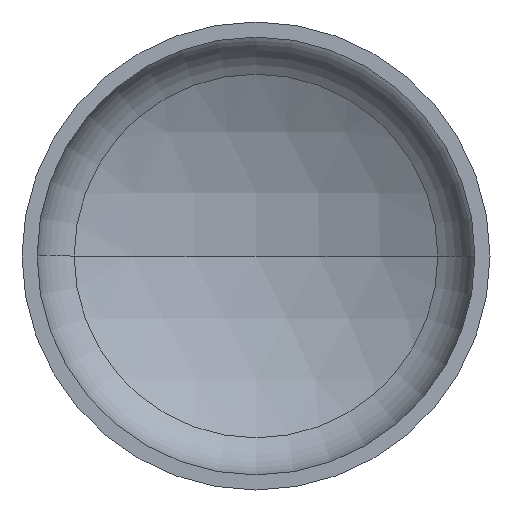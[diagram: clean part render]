
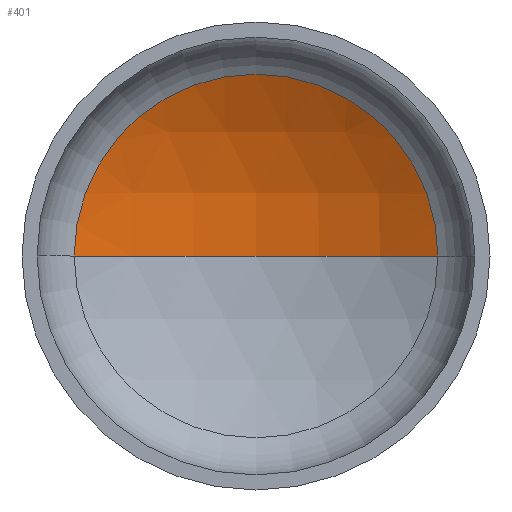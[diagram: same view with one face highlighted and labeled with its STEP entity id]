
A CAD part, front view. The second image highlights one B-rep face of the part: STEP entity #401.
In plain terms, the highlighted spherical face has radius 2880 mm.
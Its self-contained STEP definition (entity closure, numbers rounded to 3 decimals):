
#6 = ORIENTED_EDGE ( 'NONE', *, *, #157, .T. ) ;
#20 = EDGE_LOOP ( 'NONE', ( #72, #45, #6 ) ) ;
#34 = AXIS2_PLACEMENT_3D ( 'NONE', #276, #243, #241 ) ;
#45 = ORIENTED_EDGE ( 'NONE', *, *, #177, .T. ) ;
#46 = AXIS2_PLACEMENT_3D ( 'NONE', #210, #220, #217 ) ;
#72 = ORIENTED_EDGE ( 'NONE', *, *, #342, .F. ) ;
#105 = VERTEX_POINT ( 'NONE', #237 ) ;
#116 = VERTEX_POINT ( 'NONE', #238 ) ;
#132 = VERTEX_POINT ( 'NONE', #198 ) ;
#157 = EDGE_CURVE ( 'NONE', #132, #105, #346, .T. ) ;
#165 = DIRECTION ( 'NONE',  ( 1., 0., 0. ) ) ;
#168 = AXIS2_PLACEMENT_3D ( 'NONE', #318, #173, #338 ) ;
#173 = DIRECTION ( 'NONE',  ( 0., 0., -1. ) ) ;
#177 = EDGE_CURVE ( 'NONE', #116, #132, #396, .T. ) ;
#198 = CARTESIAN_POINT ( 'NONE',  ( 1398.503, 560.173, 0. ) ) ;
#210 = CARTESIAN_POINT ( 'NONE',  ( 0., 560.173, 0. ) ) ;
#217 = DIRECTION ( 'NONE',  ( 1., 0., 0. ) ) ;
#220 = DIRECTION ( 'NONE',  ( 0., -1., 0. ) ) ;
#233 = SPHERICAL_SURFACE ( 'NONE', #168, 2880. ) ;
#237 = CARTESIAN_POINT ( 'NONE',  ( -1398.503, 560.173, 0. ) ) ;
#238 = CARTESIAN_POINT ( 'NONE',  ( 0., 922.518, 0. ) ) ;
#241 = DIRECTION ( 'NONE',  ( -1., 0., 0. ) ) ;
#243 = DIRECTION ( 'NONE',  ( 0., 0., -1. ) ) ;
#261 = CIRCLE ( 'NONE', #341, 2880. ) ;
#276 = CARTESIAN_POINT ( 'NONE',  ( 0., -1957.482, 0. ) ) ;
#305 = DIRECTION ( 'NONE',  ( 0., 0., 1. ) ) ;
#318 = CARTESIAN_POINT ( 'NONE',  ( 0., -1957.482, 0. ) ) ;
#329 = CARTESIAN_POINT ( 'NONE',  ( 0., -1957.482, 0. ) ) ;
#338 = DIRECTION ( 'NONE',  ( -1., 0., 0. ) ) ;
#341 = AXIS2_PLACEMENT_3D ( 'NONE', #329, #305, #165 ) ;
#342 = EDGE_CURVE ( 'NONE', #116, #105, #261, .T. ) ;
#346 = CIRCLE ( 'NONE', #46, 1398.503 ) ;
#351 = FACE_OUTER_BOUND ( 'NONE', #20, .T. ) ;
#396 = CIRCLE ( 'NONE', #34, 2880. ) ;
#401 = ADVANCED_FACE ( 'NONE', ( #351 ), #233, .F. ) ;
